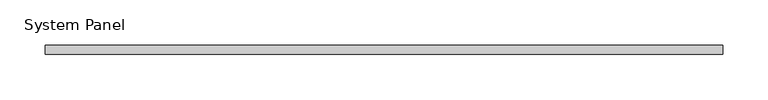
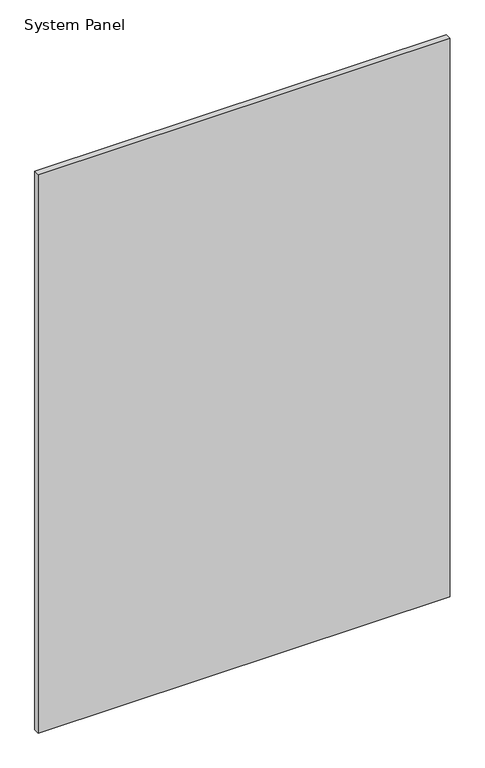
"""IFC4 building model written with IfcOpenShell, lengths in millimetres: plate geometry, System Panel : стекло_смещение_20."""

from ifc_helpers import new_model, si_unit, origin, origin_with_axes, place, context, project, spatial, polyline, outline, extrude, source, transform, mapped, element, save


def system_panel_ea901091(model_context):
    return source(origin(), model_context, "Body", "SweptSolid", [
        extrude(outline(polyline([(375.0, 15.0), (-375.0, 15.0), (-375.0, 25.0), (375.0, 25.0), (375.0, 15.0)])), origin_with_axes(), (0.0, 0.0, 1.0), 1075.0),
    ])


if __name__ == "__main__":
    model = new_model("IFC4")
    model_context = context("Model", 3, world=origin())
    ifc_project = project(units=[si_unit("LENGTHUNIT", "METRE", prefix="MILLI")], contexts=[model_context])
    site = spatial("IfcSite", under=ifc_project)
    building = spatial("IfcBuilding", under=site)
    placement = place(None, origin())
    system_panel_shape = system_panel_ea901091(model_context)
    element("IfcPlate", 1, ObjectType="System Panel : стекло_смещение_20", at=placement, inside=building, context=model_context, shape_type="MappedRepresentation", body=[
        mapped(system_panel_shape, transform((0.0, 0.0, 0.0), x_axis=(1.0, 0.0, 0.0), y_axis=(0.0, 1.0, 0.0), z_axis=(0.0, 0.0, 1.0))),
    ])
    save(model, "model.ifc")
